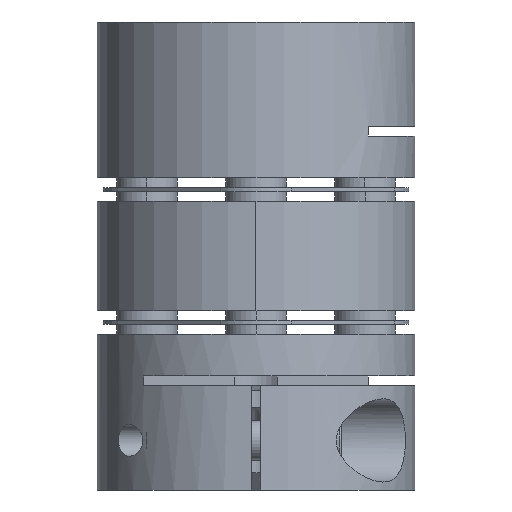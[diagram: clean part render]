
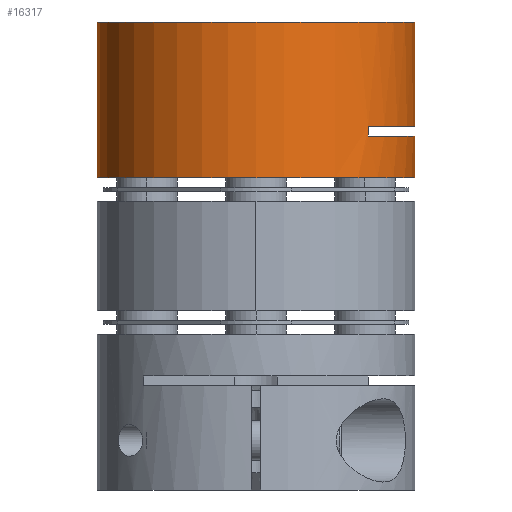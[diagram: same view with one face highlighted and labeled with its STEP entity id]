
A CAD part, front view. The second image highlights one B-rep face of the part: STEP entity #16317.
In plain terms, the highlighted cylindrical face has radius 8 mm (diameter 16 mm), a partial arc.
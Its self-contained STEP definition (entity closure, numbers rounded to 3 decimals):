
#253 = FACE_OUTER_BOUND ( 'NONE', #8630, .T. ) ;
#698 = AXIS2_PLACEMENT_3D ( 'NONE', #12359, #17654, #23093 ) ;
#877 = VERTEX_POINT ( 'NONE', #14888 ) ;
#1225 = VERTEX_POINT ( 'NONE', #7069 ) ;
#2097 = CARTESIAN_POINT ( 'NONE',  ( -1.236, 56.811, 90.04 ) ) ;
#2362 = CARTESIAN_POINT ( 'NONE',  ( -9.236, 56.811, 97.89 ) ) ;
#3203 = VERTEX_POINT ( 'NONE', #11050 ) ;
#3256 = ORIENTED_EDGE ( 'NONE', *, *, #9965, .F. ) ;
#3814 = CARTESIAN_POINT ( 'NONE',  ( -9.236, 56.811, 90.04 ) ) ;
#3893 = DIRECTION ( 'NONE',  ( 1., 0., 0. ) ) ;
#3935 = VECTOR ( 'NONE', #17035, 1000. ) ;
#4422 = CIRCLE ( 'NONE', #7866, 8. ) ;
#4904 = DIRECTION ( 'NONE',  ( -1., 0., 0. ) ) ;
#4961 = CARTESIAN_POINT ( 'NONE',  ( 4.421, 51.155, 97.89 ) ) ;
#5111 = EDGE_CURVE ( 'NONE', #3203, #6105, #13463, .T. ) ;
#6105 = VERTEX_POINT ( 'NONE', #7336 ) ;
#6181 = CARTESIAN_POINT ( 'NONE',  ( 6.764, 56.811, 97.89 ) ) ;
#6927 = ORIENTED_EDGE ( 'NONE', *, *, #12091, .T. ) ;
#7069 = CARTESIAN_POINT ( 'NONE',  ( 4.421, 51.155, 92.64 ) ) ;
#7139 = VECTOR ( 'NONE', #11186, 1000. ) ;
#7336 = CARTESIAN_POINT ( 'NONE',  ( 4.421, 51.155, 92.14 ) ) ;
#7559 = EDGE_CURVE ( 'NONE', #6105, #1225, #20098, .T. ) ;
#7590 = AXIS2_PLACEMENT_3D ( 'NONE', #17666, #17516, #17438 ) ;
#7866 = AXIS2_PLACEMENT_3D ( 'NONE', #19589, #8845, #21352 ) ;
#8471 = EDGE_CURVE ( 'NONE', #3203, #20468, #21889, .T. ) ;
#8630 = EDGE_LOOP ( 'NONE', ( #20159, #15692, #6927, #20488, #18770, #11779, #19882, #3256 ) ) ;
#8845 = DIRECTION ( 'NONE',  ( 0., 0., 1. ) ) ;
#8936 = EDGE_CURVE ( 'NONE', #877, #20428, #21459, .T. ) ;
#9965 = EDGE_CURVE ( 'NONE', #20428, #1225, #19131, .T. ) ;
#10016 = CARTESIAN_POINT ( 'NONE',  ( 6.764, 56.811, 92.64 ) ) ;
#10626 = CIRCLE ( 'NONE', #16229, 8. ) ;
#11050 = CARTESIAN_POINT ( 'NONE',  ( 6.764, 56.811, 92.14 ) ) ;
#11108 = CARTESIAN_POINT ( 'NONE',  ( 6.764, 56.811, 97.89 ) ) ;
#11186 = DIRECTION ( 'NONE',  ( 0., 0., -1. ) ) ;
#11355 = DIRECTION ( 'NONE',  ( 0., 0., -1. ) ) ;
#11522 = VERTEX_POINT ( 'NONE', #3814 ) ;
#11612 = CARTESIAN_POINT ( 'NONE',  ( -9.236, 56.811, 97.89 ) ) ;
#11779 = ORIENTED_EDGE ( 'NONE', *, *, #5111, .T. ) ;
#12025 = VECTOR ( 'NONE', #11355, 1000. ) ;
#12091 = EDGE_CURVE ( 'NONE', #13014, #11522, #21540, .T. ) ;
#12220 = AXIS2_PLACEMENT_3D ( 'NONE', #12590, #15759, #4904 ) ;
#12359 = CARTESIAN_POINT ( 'NONE',  ( -1.236, 56.811, 97.89 ) ) ;
#12590 = CARTESIAN_POINT ( 'NONE',  ( -1.236, 56.811, 92.64 ) ) ;
#13014 = VERTEX_POINT ( 'NONE', #11612 ) ;
#13463 = CIRCLE ( 'NONE', #7590, 8. ) ;
#14708 = DIRECTION ( 'NONE',  ( 0., 0., 1. ) ) ;
#14777 = VECTOR ( 'NONE', #15813, 1000. ) ;
#14888 = CARTESIAN_POINT ( 'NONE',  ( 6.764, 56.811, 97.89 ) ) ;
#15692 = ORIENTED_EDGE ( 'NONE', *, *, #18859, .F. ) ;
#15759 = DIRECTION ( 'NONE',  ( 0., 0., -1. ) ) ;
#15813 = DIRECTION ( 'NONE',  ( 0., 0., 1. ) ) ;
#16229 = AXIS2_PLACEMENT_3D ( 'NONE', #2097, #14708, #3893 ) ;
#16317 = ADVANCED_FACE ( 'NONE', ( #253 ), #17181, .T. ) ;
#17035 = DIRECTION ( 'NONE',  ( 0., 0., -1. ) ) ;
#17181 = CYLINDRICAL_SURFACE ( 'NONE', #698, 8. ) ;
#17438 = DIRECTION ( 'NONE',  ( -1., 0., 0. ) ) ;
#17516 = DIRECTION ( 'NONE',  ( 0., 0., -1. ) ) ;
#17654 = DIRECTION ( 'NONE',  ( 0., 0., -1. ) ) ;
#17666 = CARTESIAN_POINT ( 'NONE',  ( -1.236, 56.811, 92.14 ) ) ;
#18770 = ORIENTED_EDGE ( 'NONE', *, *, #8471, .F. ) ;
#18859 = EDGE_CURVE ( 'NONE', #13014, #877, #4422, .T. ) ;
#19131 = CIRCLE ( 'NONE', #12220, 8. ) ;
#19589 = CARTESIAN_POINT ( 'NONE',  ( -1.236, 56.811, 97.89 ) ) ;
#19882 = ORIENTED_EDGE ( 'NONE', *, *, #7559, .T. ) ;
#20071 = EDGE_CURVE ( 'NONE', #11522, #20468, #10626, .T. ) ;
#20098 = LINE ( 'NONE', #4961, #14777 ) ;
#20159 = ORIENTED_EDGE ( 'NONE', *, *, #8936, .F. ) ;
#20428 = VERTEX_POINT ( 'NONE', #10016 ) ;
#20468 = VERTEX_POINT ( 'NONE', #22529 ) ;
#20488 = ORIENTED_EDGE ( 'NONE', *, *, #20071, .T. ) ;
#21352 = DIRECTION ( 'NONE',  ( 1., 0., 0. ) ) ;
#21459 = LINE ( 'NONE', #11108, #7139 ) ;
#21540 = LINE ( 'NONE', #2362, #12025 ) ;
#21889 = LINE ( 'NONE', #6181, #3935 ) ;
#22529 = CARTESIAN_POINT ( 'NONE',  ( 6.764, 56.811, 90.04 ) ) ;
#23093 = DIRECTION ( 'NONE',  ( -1., 0., 0. ) ) ;
